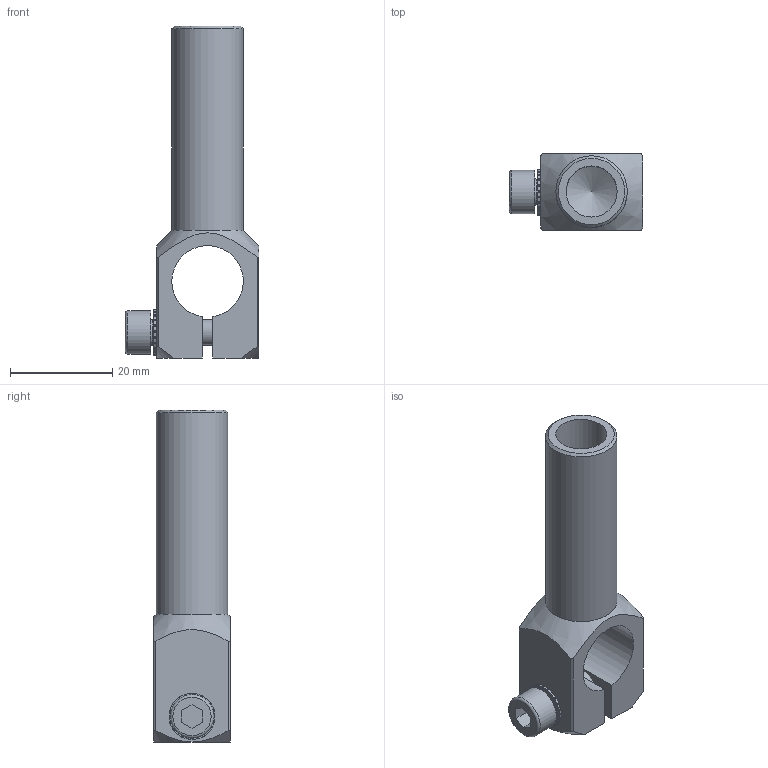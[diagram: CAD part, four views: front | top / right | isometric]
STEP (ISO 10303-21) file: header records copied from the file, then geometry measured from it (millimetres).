
FILE_DESCRIPTION(('STEP AP214'),'1');
FILE_NAME('CA.WKA.14.14.40.stp','2020-09-21T10:00:03',(' '),(' '),'Spatial InterOp 3D',' ',' ');
FILE_SCHEMA(('AUTOMOTIVE_DESIGN { 1 0 10303 214 1 1 1 1 }'));
Length unit declared in the file: millimetre
Products named in the file (4): CA.WKA.14.14.40; V.TCE5x20 ; R.5.SCH; WKA.14.14.40
Assembly tree (3 placements, depth 2):
  CA.WKA.14.14.40
    V.TCE5x20 
    R.5.SCH
    WKA.14.14.40
Bounding box: 26.1 x 15 x 65 mm (x, y, z)
Volume: 8009.2 mm3; surface area: 6542.2 mm2
Topology: 3 solids, 3 shells, 234 faces, 674 edges, 446 vertices
Faces by surface type: plane 211, cylinder 13, cone 8, torus 2
Full cylindrical faces by diameter (mm): 4.2 x1, 5 x1, 5.2 x1, 5.3 x1, 8.5 x1, 9 x1, 10 x1, 14 x1
Entity records: 9803 total; most frequent: CARTESIAN_POINT 1481, DIRECTION 1342, ORIENTED_EDGE 1312, EDGE_CURVE 656, AXIS2_PLACEMENT_3D 460, VERTEX_POINT 443, LINE 422, VECTOR 422
